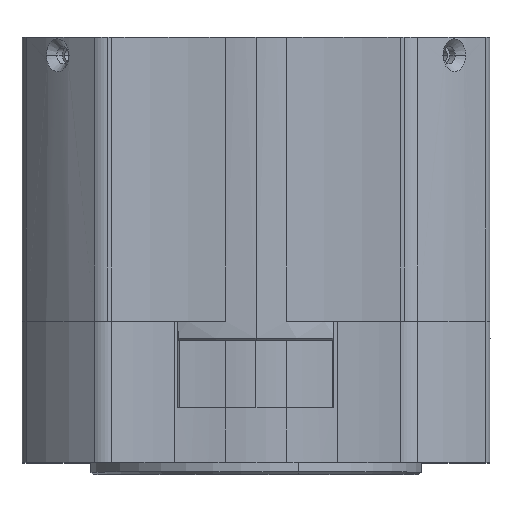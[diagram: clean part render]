
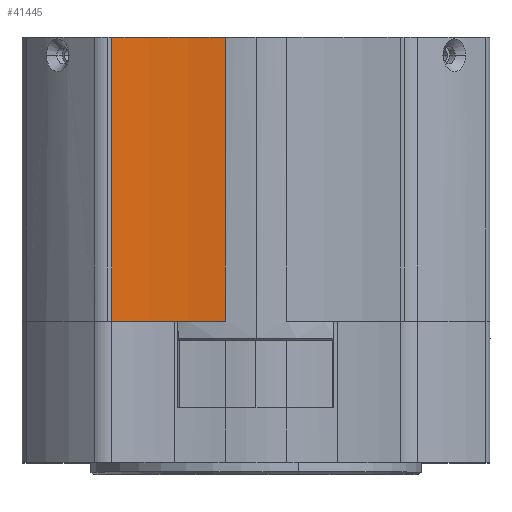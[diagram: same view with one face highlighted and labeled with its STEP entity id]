
A CAD part, top view. The second image highlights one B-rep face of the part: STEP entity #41445.
In plain terms, the highlighted cylindrical face has radius 50 mm (diameter 100 mm), a partial arc.
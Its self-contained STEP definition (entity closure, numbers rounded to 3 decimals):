
#864 = VERTEX_POINT ( 'NONE', #25546 ) ;
#1034 = AXIS2_PLACEMENT_3D ( 'NONE', #30969, #15407, #10694 ) ;
#3155 = VERTEX_POINT ( 'NONE', #41036 ) ;
#8703 = AXIS2_PLACEMENT_3D ( 'NONE', #21870, #31348, #52942 ) ;
#10327 = FACE_OUTER_BOUND ( 'NONE', #19029, .T. ) ;
#10694 = DIRECTION ( 'NONE',  ( 0., 0., 1. ) ) ;
#10886 = LINE ( 'NONE', #57837, #38406 ) ;
#11540 = DIRECTION ( 'NONE',  ( 0., 1., 0. ) ) ;
#13674 = ORIENTED_EDGE ( 'NONE', *, *, #58672, .F. ) ;
#15407 = DIRECTION ( 'NONE',  ( 0., -1., 0. ) ) ;
#15680 = VERTEX_POINT ( 'NONE', #42487 ) ;
#19029 = EDGE_LOOP ( 'NONE', ( #34745, #28714, #61364, #13674 ) ) ;
#20454 = CYLINDRICAL_SURFACE ( 'NONE', #61669, 50. ) ;
#21870 = CARTESIAN_POINT ( 'NONE',  ( -10.47, 0., 79.312 ) ) ;
#25546 = CARTESIAN_POINT ( 'NONE',  ( -18.494, 36.4, 29.96 ) ) ;
#27604 = CARTESIAN_POINT ( 'NONE',  ( -18.494, -2.5, 29.96 ) ) ;
#27844 = EDGE_CURVE ( 'NONE', #15680, #3155, #10886, .T. ) ;
#28714 = ORIENTED_EDGE ( 'NONE', *, *, #27844, .T. ) ;
#30313 = CIRCLE ( 'NONE', #8703, 50. ) ;
#30969 = CARTESIAN_POINT ( 'NONE',  ( -10.47, 36.4, 79.312 ) ) ;
#31348 = DIRECTION ( 'NONE',  ( 0., -1., 0. ) ) ;
#34745 = ORIENTED_EDGE ( 'NONE', *, *, #41014, .T. ) ;
#36005 = VERTEX_POINT ( 'NONE', #43316 ) ;
#38406 = VECTOR ( 'NONE', #11540, 1000. ) ;
#41014 = EDGE_CURVE ( 'NONE', #36005, #15680, #30313, .T. ) ;
#41036 = CARTESIAN_POINT ( 'NONE',  ( -3.926, 36.4, 29.742 ) ) ;
#41445 = ADVANCED_FACE ( 'NONE', ( #10327 ), #20454, .F. ) ;
#42487 = CARTESIAN_POINT ( 'NONE',  ( -3.926, 0., 29.742 ) ) ;
#43130 = DIRECTION ( 'NONE',  ( 0., 1., 0. ) ) ;
#43316 = CARTESIAN_POINT ( 'NONE',  ( -18.494, 0., 29.96 ) ) ;
#46313 = CIRCLE ( 'NONE', #1034, 50. ) ;
#46475 = DIRECTION ( 'NONE',  ( 0., 0., 1. ) ) ;
#50168 = VECTOR ( 'NONE', #43130, 1000. ) ;
#50881 = EDGE_CURVE ( 'NONE', #864, #3155, #46313, .T. ) ;
#51538 = DIRECTION ( 'NONE',  ( 0., 1., 0. ) ) ;
#52942 = DIRECTION ( 'NONE',  ( 0., 0., 1. ) ) ;
#57837 = CARTESIAN_POINT ( 'NONE',  ( -3.926, -2.5, 29.742 ) ) ;
#58672 = EDGE_CURVE ( 'NONE', #36005, #864, #62414, .T. ) ;
#61364 = ORIENTED_EDGE ( 'NONE', *, *, #50881, .F. ) ;
#61669 = AXIS2_PLACEMENT_3D ( 'NONE', #66754, #51538, #46475 ) ;
#62414 = LINE ( 'NONE', #27604, #50168 ) ;
#66754 = CARTESIAN_POINT ( 'NONE',  ( -10.47, -2.5, 79.312 ) ) ;
